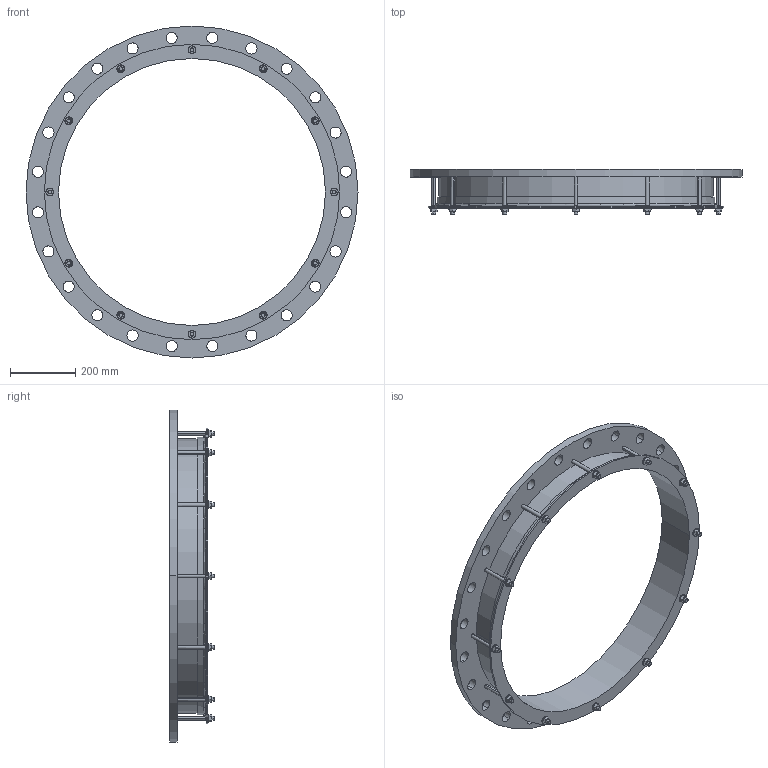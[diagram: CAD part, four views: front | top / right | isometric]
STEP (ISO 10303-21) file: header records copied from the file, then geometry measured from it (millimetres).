
FILE_DESCRIPTION((''),'2;1');
FILE_NAME('813X800PN10','2019-01-16T',('mfairey'),('Glynwed Pipe Systems'),'CREO PARAMETRIC BY PTC INC, 2016130','CREO PARAMETRIC BY PTC INC, 2016130','');
FILE_SCHEMA(('CONFIG_CONTROL_DESIGN'));
Length unit declared in the file: millimetre
Products named in the file (1): 813X800PN10
Bounding box: 1015 x 137.45 x 1015 mm (x, y, z)
Volume: 9962767.6 mm3; surface area: 1423967 mm2
Topology: 1 solids, 1 shells, 246 faces, 650 edges, 432 vertices
Faces by surface type: cylinder 128, plane 112, cone 4, torus 2
Entity records: 8584 total; most frequent: CARTESIAN_POINT 2138, DIRECTION 1340, ORIENTED_EDGE 1300, EDGE_CURVE 650, AXIS2_PLACEMENT_3D 496, VERTEX_POINT 432, VECTOR 348, LINE 348
